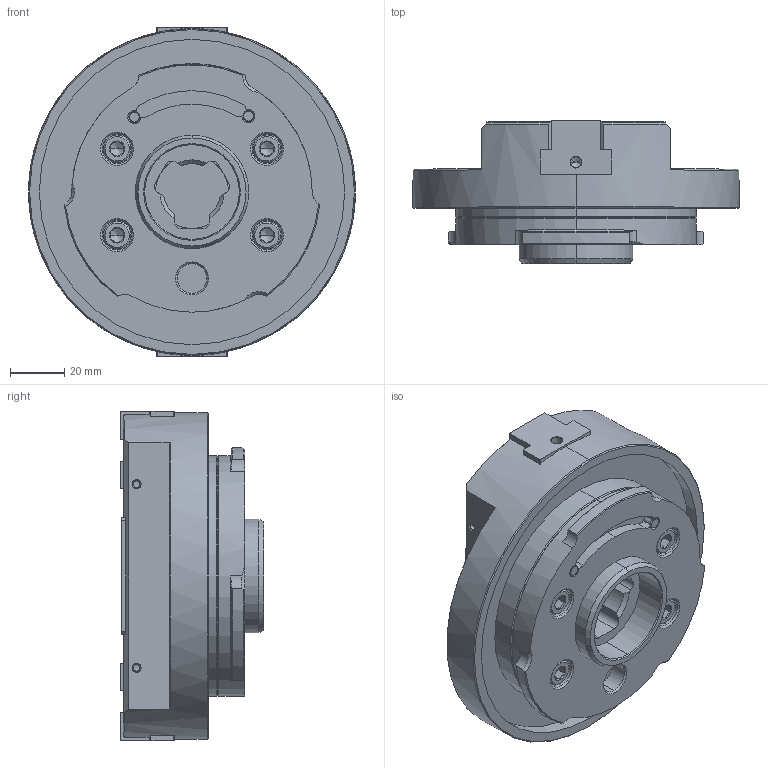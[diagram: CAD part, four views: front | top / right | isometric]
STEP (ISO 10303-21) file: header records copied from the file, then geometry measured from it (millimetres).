
FILE_DESCRIPTION (( 'STEP AP214' ), '1' );
FILE_NAME ('QGB21112-UC.STEP', '2026-01-08T02:51:24', ( '' ), ( '' ), 'SwSTEP 2.0', 'SolidWorks 2022', '' );
FILE_SCHEMA (( 'AUTOMOTIVE_DESIGN' ));
Length unit declared in the file: millimetre
Products named in the file (8): QGB21112-UC; S-SARA^ASSY_HP-QG21112-Assy-61G299499-20260105; PARALLEL PIN^ASSY_HP-QG21112-Assy-61G299499-20260105; MAIN-UC^HP-QG21112-Assy-61G299499-20260105; MASTER JAW^ASSY_HP-QG21112-Assy-61G299499-20260105; COVER^ASSY_HP-QG21112-Assy-61G299499-20260105; ASSY^HP-QG21112-Assy-61G299499-20260105_UC（開端）; BOLT^ASSY_HP-QG21112-Assy-61G299499-20260105
Assembly tree (15 placements, depth 3):
  QGB21112-UC
    ASSY^HP-QG21112-Assy-61G299499-20260105_UC（開端）
      MASTER JAW^ASSY_HP-QG21112-Assy-61G299499-20260105  x2
      COVER^ASSY_HP-QG21112-Assy-61G299499-20260105
      BOLT^ASSY_HP-QG21112-Assy-61G299499-20260105  x4
      S-SARA^ASSY_HP-QG21112-Assy-61G299499-20260105  x4
      PARALLEL PIN^ASSY_HP-QG21112-Assy-61G299499-20260105  x2
    MAIN-UC^HP-QG21112-Assy-61G299499-20260105
Bounding box: 121 x 53 x 122 mm (x, y, z)
Volume: 327488.7 mm3; surface area: 75581.5 mm2
Topology: 14 solids, 15 shells, 1647 faces, 4494 edges, 2926 vertices
Faces by surface type: plane 1161, cylinder 199, cone 181, bspline 100, torus 6
Entity records: 52698 total; most frequent: CARTESIAN_POINT 14353, ORIENTED_EDGE 7964, DIRECTION 6788, EDGE_CURVE 3982, LINE 3250, VECTOR 3250, VERTEX_POINT 2620, AXIS2_PLACEMENT_3D 1769
